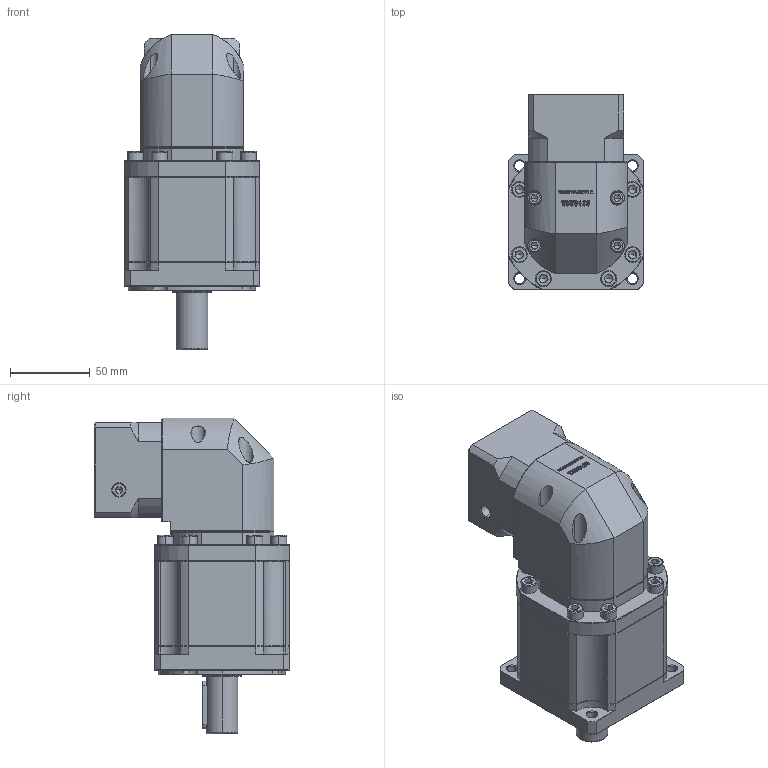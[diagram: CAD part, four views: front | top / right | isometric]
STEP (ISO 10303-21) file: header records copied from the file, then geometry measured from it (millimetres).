
FILE_DESCRIPTION (( 'STEP AP214' ), '1' );
FILE_NAME ('ZBR90-D20-L3-6.35-38.1-47.14x47.14-M4.step', '2022-05-07T15:18:31', ( '' ), ( 'Microsoft' ), 'SwSTEP 2.0', 'SolidWorks 2016', '' );
FILE_SCHEMA (( 'AUTOMOTIVE_DESIGN' ));
Length unit declared in the file: millimetre
Products named in the file (1): ZBR90-D20-L3-6.35-38.1-47.14x47.14-M4
Bounding box: 85 x 122.7 x 198 mm (x, y, z)
Volume: 926258.1 mm3; surface area: 106637.8 mm2
Topology: 5 solids, 5 shells, 3036 faces, 8121 edges, 5230 vertices
Faces by surface type: plane 1599, bspline 620, cylinder 439, cone 370, torus 8
Entity records: 161380 total; most frequent: CARTESIAN_POINT 56863, ORIENTED_EDGE 16150, DIRECTION 12415, EDGE_CURVE 8075, VECTOR 5333, LINE 5333, VERTEX_POINT 5230, AXIS2_PLACEMENT_3D 3541
